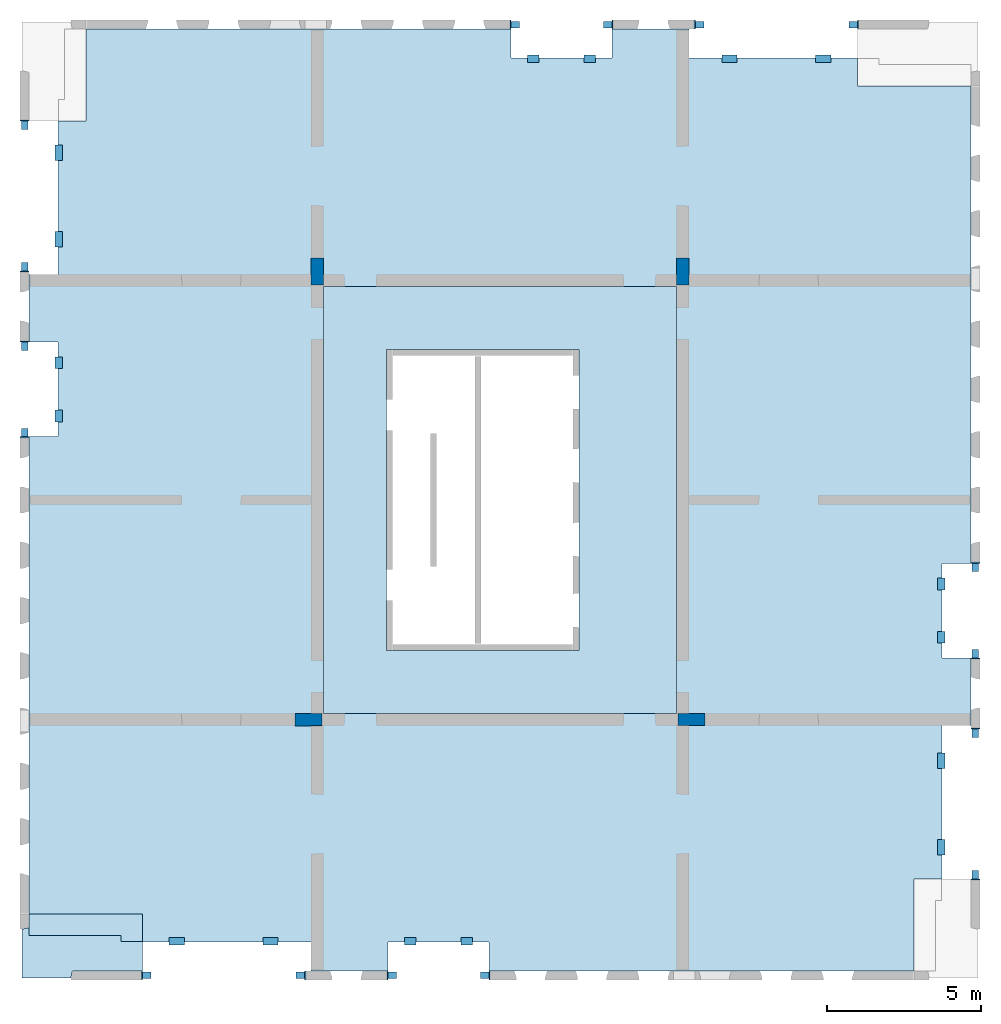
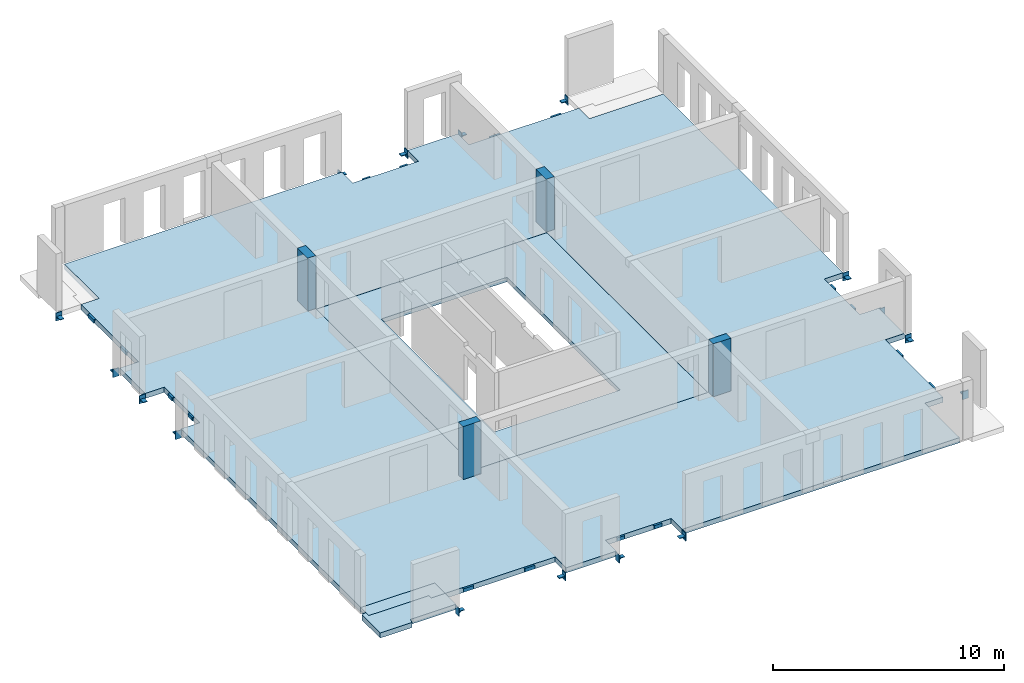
# One storey, part 1 of 4: 32 beams, 4 columns, 4 slabs, 2 openings.
"""IFC2X3 building model written with IfcOpenShell, lengths in millimetres."""

from ifc_helpers import new_model, entity, si_unit, converted_unit, derived_unit, direction, frame, frame_2d, origin, origin_2d_with_axis, place, context, subcontext, project, spatial, polyline, rectangle, outline, extrude, faceted_brep, source, transform, mapped, material, layer, layer_set, layer_usage, type_object, type_shapes, element, save


model = new_model("IFC2X3")

# Units and contexts
model_context = context("Model", 3, precision=0.01, world=origin(), true_north=direction((6.12303176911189e-17, 1.0)))
body_context = subcontext(model_context, "Body", "Model", "MODEL_VIEW")
ifc_project = project(units=[si_unit("LENGTHUNIT", "METRE", prefix="MILLI"), si_unit("AREAUNIT", "SQUARE_METRE"), si_unit("VOLUMEUNIT", "CUBIC_METRE"), converted_unit("PLANEANGLEUNIT", "DEGREE", entity("IfcRatioMeasure", 0.0174532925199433), si_unit("PLANEANGLEUNIT", "RADIAN"), dimensions=[0, 0, 0, 0, 0, 0, 0]), si_unit("MASSUNIT", "GRAM", prefix="KILO"), derived_unit("MASSDENSITYUNIT", [(si_unit("MASSUNIT", "GRAM", prefix="KILO"), 1), (si_unit("LENGTHUNIT", "METRE"), -3)]), si_unit("TIMEUNIT", "SECOND"), si_unit("FREQUENCYUNIT", "HERTZ"), si_unit("THERMODYNAMICTEMPERATUREUNIT", "DEGREE_CELSIUS"), derived_unit("THERMALTRANSMITTANCEUNIT", [(si_unit("MASSUNIT", "GRAM", prefix="KILO"), 1), (si_unit("THERMODYNAMICTEMPERATUREUNIT", "KELVIN"), -1), (si_unit("TIMEUNIT", "SECOND"), -3)]), derived_unit("VOLUMETRICFLOWRATEUNIT", [(si_unit("LENGTHUNIT", "METRE"), 3), (si_unit("TIMEUNIT", "SECOND"), -1)]), si_unit("ELECTRICCURRENTUNIT", "AMPERE"), si_unit("ELECTRICVOLTAGEUNIT", "VOLT"), si_unit("POWERUNIT", "WATT"), si_unit("FORCEUNIT", "NEWTON", prefix="KILO"), si_unit("ILLUMINANCEUNIT", "LUX"), si_unit("LUMINOUSFLUXUNIT", "LUMEN"), si_unit("LUMINOUSINTENSITYUNIT", "CANDELA"), derived_unit("USERDEFINED", [(si_unit("MASSUNIT", "GRAM", prefix="KILO"), -1), (si_unit("LENGTHUNIT", "METRE"), -2), (si_unit("TIMEUNIT", "SECOND"), 3), (si_unit("LUMINOUSFLUXUNIT", "LUMEN"), 1)]), derived_unit("LINEARVELOCITYUNIT", [(si_unit("LENGTHUNIT", "METRE"), 1), (si_unit("TIMEUNIT", "SECOND"), -1)]), si_unit("PRESSUREUNIT", "PASCAL"), derived_unit("USERDEFINED", [(si_unit("LENGTHUNIT", "METRE"), -2), (si_unit("MASSUNIT", "GRAM", prefix="KILO"), 1), (si_unit("TIMEUNIT", "SECOND"), -2)])], contexts=[model_context])

# Site, building, storey
site_placement = place(None, origin())
site = spatial("IfcSite", under=ifc_project, at=site_placement, Name="Default", CompositionType="ELEMENT")
building_placement = place(site_placement, origin())
building = spatial("IfcBuilding", under=site, at=building_placement, Name="niet gebruiken", CompositionType="ELEMENT")
storey_placement = place(building_placement, frame((0.0, 0.0, 97560.0)))
storey = spatial("IfcBuildingStorey", under=building, at=storey_placement, Name="31 eenendertigste verdieping", CompositionType="ELEMENT", Elevation=97560.0000000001)

# Columns
ifc_material_1 = material(Name="NLRS_f2_beton ihwg")
column_type_1 = type_object("IfcColumnType", Name="400x880", PredefinedType="COLUMN", material=ifc_material_1)
shared_shape_1 = source(origin(), body_context, "Body", "SweptSolid", [
    extrude(rectangle(XDim=879.999999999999, YDim=399.999999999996, at=origin_2d_with_axis()), frame((135800.0, 24940.0, 97470.0), z_axis=(0.0, 0.0, 1.0), x_axis=(0.0, -1.0, 0.0)), (0.0, 0.0, 1.0), 2789.99999999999),
])
type_shapes(column_type_1, [shared_shape_1])
column_1_placement = place(storey_placement, frame((0.0, 0.0, -97560.0)))
element("IfcColumn", 1, at=column_1_placement, inside=storey, type_object=column_type_1, material=ifc_material_1, Name="NLRS_28.11_SCO_TLB_beton kolom ihwg_gen:400x880", ObjectType="400x880", context=body_context, shape_type="MappedRepresentation", body=[
    mapped(shared_shape_1, transform((0.0, 0.0, 0.0), scale=1.0)),
])
column_type_2 = type_object("IfcColumnType", Name="400x880", PredefinedType="COLUMN", material=ifc_material_1)
shared_shape_2 = source(origin(), body_context, "Body", "SweptSolid", [
    extrude(rectangle(XDim=879.999999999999, YDim=399.999999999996, at=origin_2d_with_axis()), frame((147700.0, 24940.0, 97470.0), z_axis=(0.0, 0.0, 1.0), x_axis=(0.0, -1.0, 0.0)), (0.0, 0.0, 1.0), 2789.99999999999),
])
type_shapes(column_type_2, [shared_shape_2])
column_2_placement = place(storey_placement, frame((0.0, 0.0, -97560.0)))
element("IfcColumn", 2, at=column_2_placement, inside=storey, type_object=column_type_2, material=ifc_material_1, Name="NLRS_28.11_SCO_TLB_beton kolom ihwg_gen:400x880", ObjectType="400x880", context=body_context, shape_type="MappedRepresentation", body=[
    mapped(shared_shape_2, transform((0.0, 0.0, 0.0), scale=1.0)),
])
column_type_3 = type_object("IfcColumnType", Name="400x880", PredefinedType="COLUMN", material=ifc_material_1)
shared_shape_3 = source(origin(), body_context, "Body", "Brep", [
    faceted_brep([(880.0, 400.0, 2790.0), (531.249211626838, 400.0, 2790.0), (0.0, 400.0, 2790.0), (0.0, 1.19355884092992, 2790.0), (0.0, 0.0, 2790.0), (531.249211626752, 0.0, 2790.0), (531.249211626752, 1.19355883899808, 2790.0), (880.0, 1.19355883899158, 2790.0), (0.0, 0.0, 0.0), (0.0, 400.0, 0.0), (880.0, 400.0, 0.0), (880.0, 0.0, 0.0), (880.0, 0.0, 20.0), (531.249211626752, 0.0, 20.0), (880.0, 1.19355883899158, 20.0), (531.249211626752, 1.19355883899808, 20.0)], [[[0, 1, 2, 3, 4, 5, 6, 7]], [[8, 9, 10, 11]], [[4, 8, 11, 12, 13, 5]], [[11, 10, 0, 7, 14, 12]], [[2, 1, 0, 10, 9]], [[4, 3, 2, 9, 8]], [[15, 6, 5, 13]], [[15, 13, 12, 14]], [[6, 15, 14, 7]]]),
])
type_shapes(column_type_3, [shared_shape_3])
column_3_placement = place(storey_placement, frame((135068.750788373, 10148.806441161, -90.0)))
element("IfcColumn", 3, at=column_3_placement, inside=storey, type_object=column_type_3, material=ifc_material_1, Name="NLRS_28.11_SCO_TLB_beton kolom ihwg_gen:400x880", ObjectType="400x880", context=body_context, shape_type="MappedRepresentation", body=[
    mapped(shared_shape_3, transform((0.0, 0.0, 0.0), scale=1.0)),
])
column_type_4 = type_object("IfcColumnType", Name="400x880", PredefinedType="COLUMN", material=ifc_material_1)
shared_shape_4 = source(origin(), body_context, "Body", "SweptSolid", [
    extrude(rectangle(XDim=400.000000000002, YDim=880.000000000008, at=origin_2d_with_axis()), frame((147990.0, 10350.0, 97470.0), z_axis=(0.0, 0.0, 1.0), x_axis=(0.0, -1.0, 0.0)), (0.0, 0.0, 1.0), 2789.99999999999),
])
type_shapes(column_type_4, [shared_shape_4])
column_4_placement = place(storey_placement, frame((0.0, 0.0, -97560.0)))
element("IfcColumn", 4, at=column_4_placement, inside=storey, type_object=column_type_4, material=ifc_material_1, Name="NLRS_28.11_SCO_TLB_beton kolom ihwg_gen:400x880", ObjectType="400x880", context=body_context, shape_type="MappedRepresentation", body=[
    mapped(shared_shape_4, transform((0.0, 0.0, 0.0), scale=1.0)),
])

# Beams
ifc_material_2 = material(Name="NLRS_h2_staal")
beam_type_1 = type_object("IfcBeamType", Name="NLRS_28.11_SF_WPB_stalen schoen 4_gen", PredefinedType="BEAM", material=ifc_material_2)
shared_shape_5 = source(origin(), body_context, "Body", "SweptSolid", [
    extrude(outline(polyline([(-69.4999999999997, -23.0), (8.49999999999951, -23.0), (30.5, -1.0), (30.5000000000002, 47.0), (-69.4999999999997, -23.0)])), frame((-105.0, -109.499999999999, -58.0), z_axis=(1.0, 0.0, 0.0), x_axis=(0.0, -1.0, 0.0)), (0.0, 0.0, 1.0), 35.0),
    extrude(outline(polyline([(-69.4999999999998, -23.0), (8.49999999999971, -23.0), (30.5, -1.0), (30.5000000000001, 47.0), (-69.4999999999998, -23.0)])), frame((70.0, -109.499999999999, -58.0), z_axis=(1.0, 0.0, 0.0), x_axis=(0.0, -1.0, 0.0)), (0.0, 0.0, 1.0), 35.0),
    extrude(rectangle(XDim=300.0, YDim=34.9999999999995, at=origin_2d_with_axis()), frame((0.0, -157.5, -230.0), z_axis=(0.0, 0.0, 1.0), x_axis=(-1.0, 0.0, 0.0)), (0.0, 0.0, 1.0), 420.0),
    extrude(rectangle(XDim=210.000000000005, YDim=274.999999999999, at=origin_2d_with_axis()), frame((0.0, -2.4999999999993, -35.0), z_axis=(0.0, 0.0, 1.0), x_axis=(-1.0, 0.0, 0.0)), (0.0, 0.0, 1.0), 35.0),
])
type_shapes(beam_type_1, [shared_shape_5])
beam_1_placement = place(storey_placement, frame((157230.0, 12500.0, -310.0)))
element("IfcBeam", 5, at=beam_1_placement, inside=storey, type_object=beam_type_1, material=ifc_material_2, Name="NLRS_28.11_SF_WPB_stalen schoen 4_gen:NLRS_28.11_SF_WPB_stalen schoen 4_gen", ObjectType="NLRS_28.11_SF_WPB_stalen schoen 4_gen", context=body_context, shape_type="MappedRepresentation", body=[
    mapped(shared_shape_5, transform((0.0, 0.0, 0.0), scale=1.0)),
])
for number, where, z_axis, x_axis, name in (
    (6, (157230.0, 15300.0, -310.0), (0.0, 0.0, 1.0), (-1.0, 0.0, 0.0), "NLRS_28.11_SF_WPB_stalen schoen 4_gen:NLRS_28.11_SF_WPB_stalen schoen 4_gen"),
    (7, (126270.0, 22500.0, -310.0), (0.0, 0.0, 1.0), (-1.0, 0.0, 0.0), "NLRS_28.11_SF_WPB_stalen schoen 4_gen:NLRS_28.11_SF_WPB_stalen schoen 4_gen"),
):
    element("IfcBeam", number, at=place(storey_placement, frame(where, z_axis=z_axis, x_axis=x_axis)), inside=storey, type_object=beam_type_1, material=ifc_material_2, Name=name, ObjectType="NLRS_28.11_SF_WPB_stalen schoen 4_gen", context=body_context, shape_type="MappedRepresentation", body=[
        mapped(shared_shape_5, transform((0.0, 0.0, 0.0), scale=1.0)),
    ])
beam_2_placement = place(storey_placement, frame((126270.0, 19700.0, -310.0)))
element("IfcBeam", 8, at=beam_2_placement, inside=storey, type_object=beam_type_1, material=ifc_material_2, Name="NLRS_28.11_SF_WPB_stalen schoen 4_gen:NLRS_28.11_SF_WPB_stalen schoen 4_gen", ObjectType="NLRS_28.11_SF_WPB_stalen schoen 4_gen", context=body_context, shape_type="MappedRepresentation", body=[
    mapped(shared_shape_5, transform((0.0, 0.0, 0.0), scale=1.0)),
])
for number, where, z_axis, x_axis, name in (
    (9, (138250.0, 2020.0, -310.0), (0.0, 0.0, 1.0), (0.0, -1.0, 0.0), "NLRS_28.11_SF_WPB_stalen schoen 4_gen:NLRS_28.11_SF_WPB_stalen schoen 4_gen"),
    (10, (141250.0, 2020.0, -310.0), (0.0, 0.0, 1.0), (0.0, 1.0, 0.0), "NLRS_28.11_SF_WPB_stalen schoen 4_gen:NLRS_28.11_SF_WPB_stalen schoen 4_gen"),
    (11, (145250.0, 32980.0, -310.0), (0.0, 0.0, 1.0), (0.0, 1.0, 0.0), "NLRS_28.11_SF_WPB_stalen schoen 4_gen:NLRS_28.11_SF_WPB_stalen schoen 4_gen"),
    (12, (142250.0, 32980.0, -310.0), (0.0, 0.0, 1.0), (0.0, -1.0, 0.0), "NLRS_28.11_SF_WPB_stalen schoen 4_gen:NLRS_28.11_SF_WPB_stalen schoen 4_gen"),
):
    element("IfcBeam", number, at=place(storey_placement, frame(where, z_axis=z_axis, x_axis=x_axis)), inside=storey, type_object=beam_type_1, material=ifc_material_2, Name=name, ObjectType="NLRS_28.11_SF_WPB_stalen schoen 4_gen", context=body_context, shape_type="MappedRepresentation", body=[
        mapped(shared_shape_5, transform((0.0, 0.0, 0.0), scale=1.0)),
    ])
beam_type_2 = type_object("IfcBeamType", Name="NLRS_28.11_SF_WPB_stalen schoen 3_gen", PredefinedType="BEAM", material=ifc_material_2)
shared_shape_6 = source(origin(), body_context, "Body", "SweptSolid", [
    extrude(outline(polyline([(-69.4999999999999, -23.0), (8.49999999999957, -23.0), (30.5000000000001, -1.0), (30.5000000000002, 47.0), (-69.4999999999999, -23.0)])), frame((-105.0, -109.499999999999, -63.0), z_axis=(1.0, 0.0, 0.0), x_axis=(0.0, -1.0, 0.0)), (0.0, 0.0, 1.0), 40.0),
    extrude(outline(polyline([(-69.4999999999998, -23.0), (8.49999999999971, -23.0), (30.5, -1.0), (30.5000000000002, 47.0), (-69.4999999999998, -23.0)])), frame((65.0, -109.499999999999, -63.0), z_axis=(1.0, 0.0, 0.0), x_axis=(0.0, -1.0, 0.0)), (0.0, 0.0, 1.0), 40.0),
    extrude(rectangle(XDim=300.0, YDim=39.9999999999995, at=origin_2d_with_axis()), frame((0.0, -160.0, -230.0), z_axis=(0.0, 0.0, 1.0), x_axis=(-1.0, 0.0, 0.0)), (0.0, 0.0, 1.0), 420.0),
    extrude(rectangle(XDim=210.000000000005, YDim=274.999999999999, at=origin_2d_with_axis()), frame((0.0, -2.49999999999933, -40.0), z_axis=(0.0, 0.0, 1.0), x_axis=(-1.0, 0.0, 0.0)), (0.0, 0.0, 1.0), 39.9999999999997),
])
type_shapes(beam_type_2, [shared_shape_6])
beam_3_placement = place(storey_placement, frame((157230.0, 9900.0, -310.0), z_axis=(0.0, 0.0, 1.0), x_axis=(-1.0, 0.0, 0.0)))
element("IfcBeam", 13, at=beam_3_placement, inside=storey, type_object=beam_type_2, material=ifc_material_2, Name="NLRS_28.11_SF_WPB_stalen schoen 3_gen:NLRS_28.11_SF_WPB_stalen schoen 3_gen", ObjectType="NLRS_28.11_SF_WPB_stalen schoen 3_gen", context=body_context, shape_type="MappedRepresentation", body=[
    mapped(shared_shape_6, transform((0.0, 0.0, 0.0), scale=1.0)),
])
for number, where, name in (
    (14, (157230.0, 5300.0, -310.0), "NLRS_28.11_SF_WPB_stalen schoen 3_gen:NLRS_28.11_SF_WPB_stalen schoen 3_gen"),
    (15, (126270.0, 25100.0, -310.0), "NLRS_28.11_SF_WPB_stalen schoen 3_gen:NLRS_28.11_SF_WPB_stalen schoen 3_gen"),
):
    element("IfcBeam", number, at=place(storey_placement, frame(where)), inside=storey, type_object=beam_type_2, material=ifc_material_2, Name=name, ObjectType="NLRS_28.11_SF_WPB_stalen schoen 3_gen", context=body_context, shape_type="MappedRepresentation", body=[
        mapped(shared_shape_6, transform((0.0, 0.0, 0.0), scale=1.0)),
    ])
for number, where, z_axis, x_axis, name in (
    (16, (126270.0, 29700.0, -310.0), (0.0, 0.0, 1.0), (-1.0, 0.0, 0.0), "NLRS_28.11_SF_WPB_stalen schoen 3_gen:NLRS_28.11_SF_WPB_stalen schoen 3_gen"),
    (17, (135250.0, 2020.0, -310.0), (0.0, 0.0, 1.0), (0.0, 1.0, 0.0), "NLRS_28.11_SF_WPB_stalen schoen 3_gen:NLRS_28.11_SF_WPB_stalen schoen 3_gen"),
    (18, (130250.0, 2020.0, -310.0), (0.0, 0.0, 1.0), (0.0, -1.0, 0.0), "NLRS_28.11_SF_WPB_stalen schoen 3_gen:NLRS_28.11_SF_WPB_stalen schoen 3_gen"),
    (19, (148250.0, 32980.0, -310.0), (0.0, 0.0, 1.0), (0.0, -1.0, 0.0), "NLRS_28.11_SF_WPB_stalen schoen 3_gen:NLRS_28.11_SF_WPB_stalen schoen 3_gen"),
    (20, (153250.0, 32980.0, -310.0), (0.0, 0.0, 1.0), (0.0, 1.0, 0.0), "NLRS_28.11_SF_WPB_stalen schoen 3_gen:NLRS_28.11_SF_WPB_stalen schoen 3_gen"),
):
    element("IfcBeam", number, at=place(storey_placement, frame(where, z_axis=z_axis, x_axis=x_axis)), inside=storey, type_object=beam_type_2, material=ifc_material_2, Name=name, ObjectType="NLRS_28.11_SF_WPB_stalen schoen 3_gen", context=body_context, shape_type="MappedRepresentation", body=[
        mapped(shared_shape_6, transform((0.0, 0.0, 0.0), scale=1.0)),
    ])
beam_type_3 = type_object("IfcBeamType", Name="NLRS_28.11_SF_WPB_stalen handje 7 lang 375_gen:NLRS_28.11_SF_WPB_stalen handje 7_gen", PredefinedType="BEAM")
beam_4_placement = place(storey_placement, frame((156235.125015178, 9255.24886461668, -93.0), z_axis=(0.0, 0.0, 1.0), x_axis=(0.0, -1.0, 0.0)))
element("IfcBeam", 21, at=beam_4_placement, inside=storey, type_object=beam_type_3, material=ifc_material_2, Name="NLRS_28.11_SF_WPB_stalen handje 7 lang 375_gen:NLRS_28.11_SF_WPB_stalen handje 7_gen", ObjectType="NLRS_28.11_SF_WPB_stalen handje 7 lang 375_gen:NLRS_28.11_SF_WPB_stalen handje 7_gen", context=body_context, shape_type="SweptSolid", body=[
    extrude(outline(polyline([(-70.6666666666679, -153.33333333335), (-40.6666666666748, -153.33333333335), (-40.6666666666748, 61.6666666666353), (111.333333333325, 61.6666666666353), (111.333333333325, 91.6666666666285), (-70.6666666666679, 91.6666666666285), (-70.6666666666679, -153.33333333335)])), frame((0.0, -91.6666666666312, -70.6666666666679), z_axis=(1.0, 0.0, 0.0), x_axis=(0.0, 0.0, -1.0)), (0.0, 0.0, 1.0), 500.000000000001),
])
beam_5_placement = place(storey_placement, frame((156235.125015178, 6445.24582437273, -93.0), z_axis=(0.0, 0.0, 1.0), x_axis=(0.0, -1.0, 0.0)))
element("IfcBeam", 22, at=beam_5_placement, inside=storey, type_object=beam_type_3, material=ifc_material_2, Name="NLRS_28.11_SF_WPB_stalen handje 7 lang 375_gen:NLRS_28.11_SF_WPB_stalen handje 7_gen", ObjectType="NLRS_28.11_SF_WPB_stalen handje 7 lang 375_gen:NLRS_28.11_SF_WPB_stalen handje 7_gen", context=body_context, shape_type="SweptSolid", body=[
    extrude(outline(polyline([(-70.6666666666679, -153.33333333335), (-40.6666666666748, -153.33333333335), (-40.6666666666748, 61.6666666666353), (111.333333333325, 61.6666666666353), (111.333333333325, 91.6666666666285), (-70.6666666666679, 91.6666666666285), (-70.6666666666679, -153.33333333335)])), frame((0.0, -91.6666666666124, -70.6666666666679), z_axis=(1.0, 0.0, 0.0), x_axis=(0.0, 0.0, -1.0)), (0.0, 0.0, 1.0), 500.000000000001),
])
beam_6_placement = place(storey_placement, frame((127264.874984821, 25744.7511353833, -93.0), z_axis=(0.0, 0.0, 1.0), x_axis=(0.0, 1.0, 0.0)))
element("IfcBeam", 23, at=beam_6_placement, inside=storey, type_object=beam_type_3, material=ifc_material_2, Name="NLRS_28.11_SF_WPB_stalen handje 7 lang 375_gen:NLRS_28.11_SF_WPB_stalen handje 7_gen", ObjectType="NLRS_28.11_SF_WPB_stalen handje 7 lang 375_gen:NLRS_28.11_SF_WPB_stalen handje 7_gen", context=body_context, shape_type="SweptSolid", body=[
    extrude(outline(polyline([(-70.6666666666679, -153.333333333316), (-40.6666666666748, -153.333333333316), (-40.6666666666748, 61.6666666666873), (111.333333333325, 61.66666666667), (111.333333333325, 91.6666666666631), (-70.6666666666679, 91.6666666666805), (-70.6666666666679, -153.333333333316)])), frame((0.0, -91.6666666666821, -70.6666666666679), z_axis=(1.0, 0.0, 0.0), x_axis=(0.0, 0.0, -1.0)), (0.0, 0.0, 1.0), 500.000000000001),
])
beam_7_placement = place(storey_placement, frame((127264.874984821, 28554.7541756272, -93.0), z_axis=(0.0, 0.0, 1.0), x_axis=(0.0, 1.0, 0.0)))
element("IfcBeam", 24, at=beam_7_placement, inside=storey, type_object=beam_type_3, material=ifc_material_2, Name="NLRS_28.11_SF_WPB_stalen handje 7 lang 375_gen:NLRS_28.11_SF_WPB_stalen handje 7_gen", ObjectType="NLRS_28.11_SF_WPB_stalen handje 7 lang 375_gen:NLRS_28.11_SF_WPB_stalen handje 7_gen", context=body_context, shape_type="SweptSolid", body=[
    extrude(outline(polyline([(-70.6666666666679, -153.333333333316), (-40.6666666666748, -153.333333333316), (-40.6666666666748, 61.6666666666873), (111.333333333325, 61.66666666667), (111.333333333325, 91.6666666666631), (-70.6666666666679, 91.6666666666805), (-70.6666666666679, -153.333333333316)])), frame((0.0, -91.66666666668, -70.6666666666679), z_axis=(1.0, 0.0, 0.0), x_axis=(0.0, 0.0, -1.0)), (0.0, 0.0, 1.0), 500.000000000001),
])
for number, where, z_axis, x_axis, name in (
    (25, (140862.631597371, 3015.23611279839, -93.0), (0.0, 0.0, 1.0), (-1.0, 0.0, 0.0), "NLRS_28.11_SF_WPB_stalen handje 7 lang 375_gen:NLRS_28.11_SF_WPB_stalen handje 7_gen"),
    (26, (139012.628555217, 3015.23611279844, -93.0), (0.0, 0.0, 1.0), (-1.0, 0.0, 0.0), "NLRS_28.11_SF_WPB_stalen handje 7 lang 375_gen:NLRS_28.11_SF_WPB_stalen handje 7_gen"),
):
    element("IfcBeam", number, at=place(storey_placement, frame(where, z_axis=z_axis, x_axis=x_axis)), inside=storey, type_object=beam_type_3, material=ifc_material_2, Name=name, ObjectType="NLRS_28.11_SF_WPB_stalen handje 7 lang 375_gen:NLRS_28.11_SF_WPB_stalen handje 7_gen", context=body_context, shape_type="SweptSolid", body=[
        extrude(outline(polyline([(-70.6666666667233, -153.333333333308), (-40.6666666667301, -153.333333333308), (-40.6666666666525, 61.6666666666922), (111.333333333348, 61.6666666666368), (111.333333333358, 91.6666666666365), (-70.6666666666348, 91.6666666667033), (-70.6666666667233, -153.333333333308)])), frame((0.0, -91.6666666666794, -70.6666666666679), z_axis=(1.0, 0.0, 0.0), x_axis=(0.0, 0.0, -1.0)), (0.0, 0.0, 1.0), 375.000000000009),
    ])
for number, where, z_axis, x_axis, name in (
    (27, (134525.131597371, 3015.23611279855, -93.0), (0.0, 0.0, 1.0), (-1.0, 0.0, 0.0), "NLRS_28.11_SF_WPB_stalen handje 7 lang 375_gen:NLRS_28.11_SF_WPB_stalen handje 7_gen"),
    (28, (131475.128555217, 3015.23611279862, -93.0), (0.0, 0.0, 1.0), (-1.0, 0.0, 0.0), "NLRS_28.11_SF_WPB_stalen handje 7 lang 375_gen:NLRS_28.11_SF_WPB_stalen handje 7_gen"),
):
    element("IfcBeam", number, at=place(storey_placement, frame(where, z_axis=z_axis, x_axis=x_axis)), inside=storey, type_object=beam_type_3, material=ifc_material_2, Name=name, ObjectType="NLRS_28.11_SF_WPB_stalen handje 7 lang 375_gen:NLRS_28.11_SF_WPB_stalen handje 7_gen", context=body_context, shape_type="SweptSolid", body=[
        extrude(outline(polyline([(-70.6666666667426, -153.333333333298), (-40.6666666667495, -153.333333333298), (-40.6666666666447, 61.6666666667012), (111.333333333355, 61.6666666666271), (111.33333333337, 91.6666666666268), (-70.6666666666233, 91.666666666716), (-70.6666666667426, -153.333333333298)])), frame((0.0, -91.6666666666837, -70.6666666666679), z_axis=(1.0, 0.0, 0.0), x_axis=(0.0, 0.0, -1.0)), (0.0, 0.0, 1.0), 500.000000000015),
    ])
for number, where, name in (
    (29, (142637.368402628, 31984.7638872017, -93.0), "NLRS_28.11_SF_WPB_stalen handje 7 lang 375_gen:NLRS_28.11_SF_WPB_stalen handje 7_gen"),
    (30, (144487.371444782, 31984.7638872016, -93.0), "NLRS_28.11_SF_WPB_stalen handje 7 lang 375_gen:NLRS_28.11_SF_WPB_stalen handje 7_gen"),
):
    element("IfcBeam", number, at=place(storey_placement, frame(where)), inside=storey, type_object=beam_type_3, material=ifc_material_2, Name=name, ObjectType="NLRS_28.11_SF_WPB_stalen handje 7 lang 375_gen:NLRS_28.11_SF_WPB_stalen handje 7_gen", context=body_context, shape_type="SweptSolid", body=[
        extrude(outline(polyline([(-70.6666666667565, -153.333333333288), (-40.6666666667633, -153.333333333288), (-40.6666666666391, 61.6666666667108), (111.333333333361, 61.666666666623), (111.333333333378, 91.6666666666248), (-70.666666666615, 91.6666666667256), (-70.6666666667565, -153.333333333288)])), frame((0.0, -91.6666666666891, -70.6666666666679), z_axis=(1.0, 0.0, 0.0), x_axis=(0.0, 0.0, -1.0)), (0.0, 0.0, 1.0), 375.000000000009),
    ])
for number, where, name in (
    (31, (148974.868402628, 31984.7638872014, -93.0), "NLRS_28.11_SF_WPB_stalen handje 7 lang 375_gen:NLRS_28.11_SF_WPB_stalen handje 7_gen"),
    (32, (152024.871444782, 31984.7638872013, -93.0), "NLRS_28.11_SF_WPB_stalen handje 7 lang 375_gen:NLRS_28.11_SF_WPB_stalen handje 7_gen"),
):
    element("IfcBeam", number, at=place(storey_placement, frame(where)), inside=storey, type_object=beam_type_3, material=ifc_material_2, Name=name, ObjectType="NLRS_28.11_SF_WPB_stalen handje 7 lang 375_gen:NLRS_28.11_SF_WPB_stalen handje 7_gen", context=body_context, shape_type="SweptSolid", body=[
        extrude(outline(polyline([(-70.6666666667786, -153.333333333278), (-40.6666666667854, -153.333333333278), (-40.6666666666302, 61.6666666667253), (111.33333333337, 61.6666666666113), (111.333333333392, 91.6666666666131), (-70.6666666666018, 91.6666666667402), (-70.6666666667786, -153.333333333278)])), frame((0.0, -91.6666666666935, -70.6666666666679), z_axis=(1.0, 0.0, 0.0), x_axis=(0.0, 0.0, -1.0)), (0.0, 0.0, 1.0), 500.000000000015),
    ])
beam_8_placement = place(storey_placement, frame((156235.0, 14952.5097115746, -93.0), z_axis=(0.0, 0.0, 1.0), x_axis=(0.0, -1.0, 0.0)))
element("IfcBeam", 33, at=beam_8_placement, inside=storey, type_object=beam_type_3, material=ifc_material_2, Name="NLRS_28.11_SF_WPB_stalen handje 7 lang 375_gen:NLRS_28.11_SF_WPB_stalen handje 7_gen", ObjectType="NLRS_28.11_SF_WPB_stalen handje 7 lang 375_gen:NLRS_28.11_SF_WPB_stalen handje 7_gen", context=body_context, shape_type="SweptSolid", body=[
    extrude(outline(polyline([(-70.6666666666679, -153.333333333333), (-40.6666666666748, -153.333333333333), (-40.6666666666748, 61.66666666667), (111.333333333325, 61.66666666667), (111.333333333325, 91.6666666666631), (-70.6666666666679, 91.6666666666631), (-70.6666666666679, -153.333333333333)])), frame((0.0, -91.6666666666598, -70.6666666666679), z_axis=(1.0, 0.0, 0.0), x_axis=(0.0, 0.0, -1.0)), (0.0, 0.0, 1.0), 375.000000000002),
])
beam_9_placement = place(storey_placement, frame((156235.0, 13222.5097115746, -93.0), z_axis=(0.0, 0.0, 1.0), x_axis=(0.0, -1.0, 0.0)))
element("IfcBeam", 34, at=beam_9_placement, inside=storey, type_object=beam_type_3, material=ifc_material_2, Name="NLRS_28.11_SF_WPB_stalen handje 7 lang 375_gen:NLRS_28.11_SF_WPB_stalen handje 7_gen", ObjectType="NLRS_28.11_SF_WPB_stalen handje 7 lang 375_gen:NLRS_28.11_SF_WPB_stalen handje 7_gen", context=body_context, shape_type="SweptSolid", body=[
    extrude(outline(polyline([(-70.6666666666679, -153.333333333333), (-40.6666666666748, -153.333333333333), (-40.6666666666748, 61.66666666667), (111.333333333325, 61.66666666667), (111.333333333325, 91.6666666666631), (-70.6666666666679, 91.6666666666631), (-70.6666666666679, -153.333333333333)])), frame((0.0, -91.6666666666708, -70.6666666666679), z_axis=(1.0, 0.0, 0.0), x_axis=(0.0, 0.0, -1.0)), (0.0, 0.0, 1.0), 375.000000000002),
])
beam_10_placement = place(storey_placement, frame((127265.0, 20047.4902884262, -93.0), z_axis=(0.0, 0.0, 1.0), x_axis=(0.0, 1.0, 0.0)))
element("IfcBeam", 35, at=beam_10_placement, inside=storey, type_object=beam_type_3, material=ifc_material_2, Name="NLRS_28.11_SF_WPB_stalen handje 7 lang 375_gen:NLRS_28.11_SF_WPB_stalen handje 7_gen", ObjectType="NLRS_28.11_SF_WPB_stalen handje 7 lang 375_gen:NLRS_28.11_SF_WPB_stalen handje 7_gen", context=body_context, shape_type="SweptSolid", body=[
    extrude(outline(polyline([(-70.6666666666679, -153.333333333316), (-40.6666666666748, -153.333333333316), (-40.6666666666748, 61.6666666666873), (111.333333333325, 61.66666666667), (111.333333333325, 91.6666666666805), (-70.6666666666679, 91.6666666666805), (-70.6666666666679, -153.333333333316)])), frame((0.0, -91.6666666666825, -70.6666666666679), z_axis=(1.0, 0.0, 0.0), x_axis=(0.0, 0.0, -1.0)), (0.0, 0.0, 1.0), 375.000000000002),
])
beam_11_placement = place(storey_placement, frame((127265.0, 21777.4902884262, -93.0), z_axis=(0.0, 0.0, 1.0), x_axis=(0.0, 1.0, 0.0)))
element("IfcBeam", 36, at=beam_11_placement, inside=storey, type_object=beam_type_3, material=ifc_material_2, Name="NLRS_28.11_SF_WPB_stalen handje 7 lang 375_gen:NLRS_28.11_SF_WPB_stalen handje 7_gen", ObjectType="NLRS_28.11_SF_WPB_stalen handje 7 lang 375_gen:NLRS_28.11_SF_WPB_stalen handje 7_gen", context=body_context, shape_type="SweptSolid", body=[
    extrude(outline(polyline([(-70.6666666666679, -153.33333333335), (-40.6666666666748, -153.33333333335), (-40.6666666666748, 61.6666666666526), (111.333333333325, 61.6666666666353), (111.333333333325, 91.6666666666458), (-70.6666666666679, 91.6666666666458), (-70.6666666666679, -153.33333333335)])), frame((0.0, -91.6666666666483, -70.6666666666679), z_axis=(1.0, 0.0, 0.0), x_axis=(0.0, 0.0, -1.0)), (0.0, 0.0, 1.0), 375.000000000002),
])

# Slabs
ifc_material_3 = material(Name="NLRS_f2_beton prefab")
ifc_layer_1 = layer(ifc_material_3, 270.0)
ifc_layer_set_1 = layer_set([ifc_layer_1], Name="Floor:NLRS_23.22_FL_beton prefab d=270 3D element_gen")
ifc_layer_usage_1 = layer_usage(ifc_layer_set_1, "AXIS3", "POSITIVE", 0.0)
slab_1_placement = place(storey_placement, origin())
element("IfcSlab", 37, at=slab_1_placement, inside=storey, material=ifc_layer_usage_1, Name="Floor:NLRS_23.22_FL_beton prefab d=270 3D element_gen", ObjectType="Floor:NLRS_23.22_FL_beton prefab d=270 3D element_gen", PredefinedType="LANDING", context=body_context, shape_type="SweptSolid", body=[
    extrude(outline(polyline([(-982.471394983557, -1442.47139498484), (607.67594043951, -1442.47139498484), (655.152429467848, -1209.47139498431), (1100.52860501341, -1209.47139498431), (1100.52860501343, 2480.5286050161), (-749.471394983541, 2480.5286050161), (-749.471394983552, 195.15242946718), (-982.47139498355, 147.675940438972), (-982.471394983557, -1442.47139498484)])), frame((127629.471394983, 2919.47139499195, -90.0), z_axis=(0.0, 0.0, -1.0), x_axis=(0.0, 1.0, 0.0)), (0.0, 0.0, 1.0), 270.000000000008),
])
ifc_layer_2 = layer(ifc_material_1, 170.0)
ifc_layer_set_2 = layer_set([ifc_layer_2], Name="Floor:NLRS_23.21_FL_beton ihwg d=170_gen")
ifc_layer_usage_2 = layer_usage(ifc_layer_set_2, "AXIS3", "POSITIVE", 0.0)
slab_2_placement = place(storey_placement, origin())
element("IfcSlab", 38, at=slab_2_placement, inside=storey, material=ifc_layer_usage_2, Name="Floor:NLRS_23.21_FL_beton ihwg d=170_gen", ObjectType="Floor:NLRS_23.21_FL_beton ihwg d=170_gen", PredefinedType="FLOOR", context=body_context, shape_type="SweptSolid", body=[
    extrude(outline(polyline([(-166.666666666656, -2226.66666666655), (533.333333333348, -2226.66666666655), (533.333333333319, 1463.33333333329), (-366.666666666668, 1463.33333333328), (-366.666666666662, 763.333333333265), (-166.666666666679, 763.333333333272), (-166.666666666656, -2226.66666666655)])), frame((128646.666666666, 3486.66666667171, -90.0), z_axis=(0.0, 0.0, -1.0), x_axis=(0.0, 1.0, 0.0)), (0.0, 0.0, 1.0), 169.999999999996),
])

# Slab, opening
ifc_layer_3 = layer(ifc_material_1, 230.0)
ifc_layer_set_3 = layer_set([ifc_layer_3], Name="Floor:NLRS_23.21_FL_vloer=230_gen")
ifc_layer_usage_3 = layer_usage(ifc_layer_set_3, "AXIS3", "POSITIVE", 0.0)
slab_3_placement = place(storey_placement, frame((136000.0, 10549.7638872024, -320.0)))
slab_3 = element("IfcSlab", 39, at=slab_3_placement, inside=storey, material=ifc_layer_usage_3, Name="Floor:NLRS_23.21_FL_vloer=230_gen", ObjectType="Floor:NLRS_23.21_FL_vloer=230_gen", PredefinedType="FLOOR", context=body_context, shape_type="SweptSolid", body=[
    extrude(rectangle(XDim=13900.2361127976, YDim=11500.0, at=frame_2d((0.0, 0.0), x_axis=(0.0, -1.0))), frame((5750.0, 6950.11805639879, 230.0), z_axis=(0.0, 0.0, -1.0), x_axis=(-1.0, 0.0, 0.0)), (0.0, 0.0, 1.0), 230.0),
])
opening_1_placement = place(slab_3_placement, frame((5190.0, 6950.23611279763, 230.0)))
element("IfcOpeningElement", 40, at=opening_1_placement, cuts=slab_3, Name="Floor:NLRS_23.21_FL_vloer=230_gen:2", ObjectType="Opening", context=body_context, shape_type="SweptSolid", body=[
    extrude(rectangle(XDim=9800.0, YDim=6279.99999999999, at=origin_2d_with_axis()), frame((0.0, 0.0, 0.0), z_axis=(0.0, 0.0, -1.0), x_axis=(0.0, -1.0, 0.0)), (0.0, 0.0, 1.0), 230.0),
])

ifc_layer_4 = layer(ifc_material_1, 170.0)
ifc_layer_5 = layer(ifc_material_3, 100.0)
ifc_layer_set_4 = layer_set([ifc_layer_4, ifc_layer_5], Name="Floor:NLRS_23.21_FL_breedplaat d=100/270_gen")
ifc_layer_usage_4 = layer_usage(ifc_layer_set_4, "AXIS3", "POSITIVE", 0.0)
slab_4_placement = place(storey_placement, frame((126420.0, 2170.0, -360.0)))
slab_4 = element("IfcSlab", 41, at=slab_4_placement, inside=storey, material=ifc_layer_usage_4, Name="Floor:NLRS_23.21_FL_breedplaat d=100/270_gen", ObjectType="Floor:NLRS_23.21_FL_breedplaat d=100/270_gen", PredefinedType="FLOOR", context=body_context, shape_type="SweptSolid", body=[
    extrude(outline(polyline([(-360.0, 15330.0), (-360.0, 14385.0), (-3640.0, 14385.0), (-3640.0, 15330.0), (-6150.0, 15330.0), (-6150.0, 14385.0), (-11640.0, 14385.0), (-11640.0, 13480.0), (-15330.0, 13480.0), (-15330.0, -2060.0), (-14385.0, -2060.0), (-14385.0, -5140.0), (-15330.0, -5140.0), (-15330.0, -7350.0), (-14385.0, -7350.0), (-14385.0, -12340.0), (-13480.0, -12340.0), (-13480.0, -15330.0), (360.0, -15330.0), (360.0, -14385.0), (3640.0, -14385.0), (3640.0, -15330.0), (6150.0, -15330.0), (6150.0, -14385.0), (11640.0, -14385.0), (11640.0, -13480.0), (15330.0, -13480.0), (15330.0, 2060.0), (14385.0, 2060.0), (14385.0, 5140.0), (15330.0, 5140.0), (15330.0, 7350.0), (14385.0, 7350.0), (14385.0, 12340.0), (13480.0, 12340.0), (13480.0, 15330.0), (-360.0, 15330.0)])), frame((15330.0, 15330.0, 270.0), z_axis=(0.0, 0.0, -1.0), x_axis=(-1.0, 0.0, 0.0)), (0.0, 0.0, 1.0), 270.000000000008),
])
opening_2_placement = place(slab_4_placement, frame((15330.0, 15330.0, 270.0)))
element("IfcOpeningElement", 42, at=opening_2_placement, cuts=slab_4, Name="Floor:NLRS_23.21_FL_breedplaat d=100/270_gen:2", ObjectType="Opening", context=body_context, shape_type="SweptSolid", body=[
    extrude(rectangle(XDim=13899.9999999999, YDim=11500.0, at=origin_2d_with_axis()), frame((0.0, 0.0, 0.0), z_axis=(0.0, 0.0, -1.0), x_axis=(0.0, -1.0, 0.0)), (0.0, 0.0, 1.0), 270.000000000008),
])

save(model, "model.ifc")
